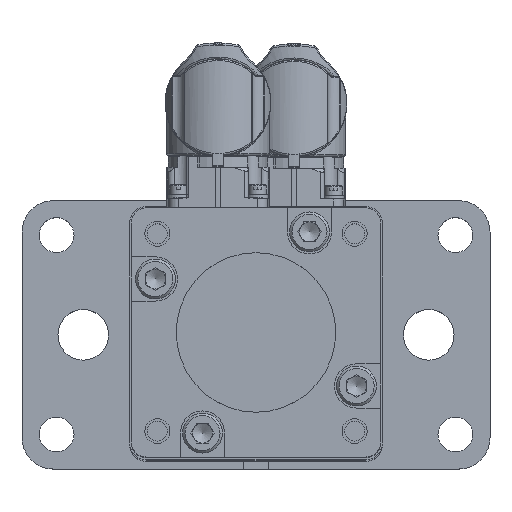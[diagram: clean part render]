
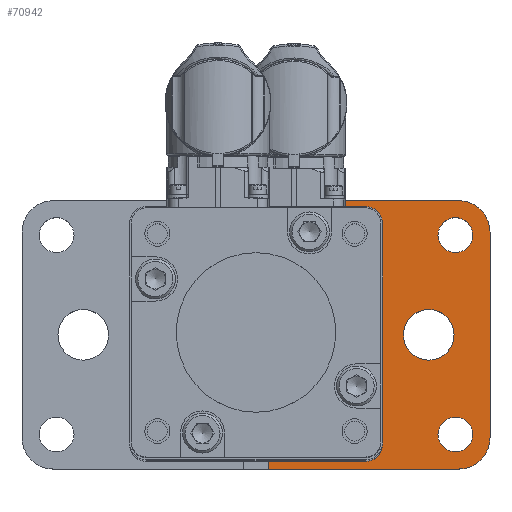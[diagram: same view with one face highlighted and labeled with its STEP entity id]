
A CAD part, top view. The second image highlights one B-rep face of the part: STEP entity #70942.
In plain terms, the highlighted planar face has unit normal (0, 0, 1) as drawn and (0, 0, -1) by its records, which use the part's own axes.
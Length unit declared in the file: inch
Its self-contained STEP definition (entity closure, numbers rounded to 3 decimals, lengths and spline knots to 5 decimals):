
#104 = CARTESIAN_POINT ( 'NONE',  ( -2., 1.325, -0.44 ) ) ;
#266 = ORIENTED_EDGE ( 'NONE', *, *, #1417, .F. ) ;
#371 = ORIENTED_EDGE ( 'NONE', *, *, #32961, .F. ) ;
#706 = VERTEX_POINT ( 'NONE', #18119 ) ;
#1056 = CARTESIAN_POINT ( 'NONE',  ( -0.3937, 1.06299, -0.44 ) ) ;
#1213 = LINE ( 'NONE', #43679, #59910 ) ;
#1417 = EDGE_CURVE ( 'NONE', #60629, #69089, #22591, .T. ) ;
#1883 = VERTEX_POINT ( 'NONE', #68695 ) ;
#2160 = DIRECTION ( 'NONE',  ( 0., 0., -1. ) ) ;
#3433 = CARTESIAN_POINT ( 'NONE',  ( -1.9685, -0.98425, -0.44 ) ) ;
#3524 = CARTESIAN_POINT ( 'NONE',  ( -1.06299, 0.3937, -0.44 ) ) ;
#3989 = DIRECTION ( 'NONE',  ( 1., 0., 0. ) ) ;
#5528 = VERTEX_POINT ( 'NONE', #23320 ) ;
#5602 = CARTESIAN_POINT ( 'NONE',  ( -1.06299, -0.3937, -0.44 ) ) ;
#5651 = CIRCLE ( 'NONE', #48803, 0.31 ) ;
#6869 = EDGE_CURVE ( 'NONE', #40853, #40853, #19433, .T. ) ;
#7464 = DIRECTION ( 'NONE',  ( 0., 0., -1. ) ) ;
#8457 = EDGE_CURVE ( 'NONE', #26974, #27227, #15706, .T. ) ;
#8902 = CARTESIAN_POINT ( 'NONE',  ( -2., -1.325, -0.44 ) ) ;
#10512 = CIRCLE ( 'NONE', #48689, 0.133 ) ;
#11090 = DIRECTION ( 'NONE',  ( 0., -1., 0. ) ) ;
#12034 = CARTESIAN_POINT ( 'NONE',  ( -2.31, -1.015, -0.44 ) ) ;
#12670 = AXIS2_PLACEMENT_3D ( 'NONE', #42737, #2160, #66322 ) ;
#13094 = EDGE_LOOP ( 'NONE', ( #44383 ) ) ;
#13438 = CARTESIAN_POINT ( 'NONE',  ( -0.125, 1.325, -0.44 ) ) ;
#14062 = VECTOR ( 'NONE', #72287, 39.37008 ) ;
#14290 = DIRECTION ( 'NONE',  ( 0., 0., 1. ) ) ;
#14295 = AXIS2_PLACEMENT_3D ( 'NONE', #35372, #46190, #11090 ) ;
#15706 = CIRCLE ( 'NONE', #65077, 0.94514 ) ;
#16336 = EDGE_LOOP ( 'NONE', ( #56845 ) ) ;
#16414 = DIRECTION ( 'NONE',  ( 1., 0., 0. ) ) ;
#17439 = CIRCLE ( 'NONE', #40830, 0.31 ) ;
#18119 = CARTESIAN_POINT ( 'NONE',  ( -1.7965, -0.98425, -0.44 ) ) ;
#18312 = EDGE_CURVE ( 'NONE', #58637, #58637, #59466, .T. ) ;
#18618 = ORIENTED_EDGE ( 'NONE', *, *, #6869, .F. ) ;
#18971 = CARTESIAN_POINT ( 'NONE',  ( -2., -1.015, -0.44 ) ) ;
#19281 = DIRECTION ( 'NONE',  ( 1., 0., 0. ) ) ;
#19433 = CIRCLE ( 'NONE', #42895, 0.133 ) ;
#19898 = VECTOR ( 'NONE', #33766, 39.37008 ) ;
#20376 = AXIS2_PLACEMENT_3D ( 'NONE', #62722, #34466, #3989 ) ;
#20418 = EDGE_LOOP ( 'NONE', ( #29972 ) ) ;
#21841 = CARTESIAN_POINT ( 'NONE',  ( -2.31, 1.325, -0.44 ) ) ;
#21934 = CARTESIAN_POINT ( 'NONE',  ( -2.31, 1.015, -0.44 ) ) ;
#22153 = FACE_BOUND ( 'NONE', #31858, .T. ) ;
#22591 = LINE ( 'NONE', #21841, #19898 ) ;
#22942 = EDGE_LOOP ( 'NONE', ( #41496 ) ) ;
#23320 = CARTESIAN_POINT ( 'NONE',  ( -0.3937, 1.19599, -0.44 ) ) ;
#24167 = EDGE_CURVE ( 'NONE', #36940, #36940, #31121, .T. ) ;
#25052 = CARTESIAN_POINT ( 'NONE',  ( -0.125, -1.325, -0.44 ) ) ;
#25214 = ORIENTED_EDGE ( 'NONE', *, *, #75195, .T. ) ;
#26126 = AXIS2_PLACEMENT_3D ( 'NONE', #48603, #72221, #19281 ) ;
#26135 = DIRECTION ( 'NONE',  ( 0., 0., 1. ) ) ;
#26971 = DIRECTION ( 'NONE',  ( 1., 0., 0. ) ) ;
#26974 = VERTEX_POINT ( 'NONE', #60121 ) ;
#27227 = VERTEX_POINT ( 'NONE', #72302 ) ;
#27689 = EDGE_LOOP ( 'NONE', ( #62022 ) ) ;
#27913 = FACE_OUTER_BOUND ( 'NONE', #66453, .T. ) ;
#28355 = VECTOR ( 'NONE', #49306, 39.37008 ) ;
#28915 = AXIS2_PLACEMENT_3D ( 'NONE', #1056, #26135, #54358 ) ;
#29139 = CARTESIAN_POINT ( 'NONE',  ( -2., 1.015, -0.44 ) ) ;
#29915 = EDGE_CURVE ( 'NONE', #27227, #1883, #60547, .T. ) ;
#29972 = ORIENTED_EDGE ( 'NONE', *, *, #43267, .F. ) ;
#30515 = CARTESIAN_POINT ( 'NONE',  ( -2.31, 1.325, -0.44 ) ) ;
#31121 = CIRCLE ( 'NONE', #12670, 0.172 ) ;
#31858 = EDGE_LOOP ( 'NONE', ( #74514 ) ) ;
#32961 = EDGE_CURVE ( 'NONE', #52414, #26974, #52243, .T. ) ;
#33326 = FACE_BOUND ( 'NONE', #27689, .T. ) ;
#33766 = DIRECTION ( 'NONE',  ( 0., -1., 0. ) ) ;
#34466 = DIRECTION ( 'NONE',  ( 0., 0., 1. ) ) ;
#35372 = CARTESIAN_POINT ( 'NONE',  ( -0.3937, -1.06299, -0.44 ) ) ;
#36729 = DIRECTION ( 'NONE',  ( 1., 0., 0. ) ) ;
#36940 = VERTEX_POINT ( 'NONE', #60545 ) ;
#38503 = ORIENTED_EDGE ( 'NONE', *, *, #8457, .F. ) ;
#39639 = VERTEX_POINT ( 'NONE', #104 ) ;
#40613 = EDGE_CURVE ( 'NONE', #39639, #1883, #43254, .T. ) ;
#40830 = AXIS2_PLACEMENT_3D ( 'NONE', #29139, #52737, #76358 ) ;
#40853 = VERTEX_POINT ( 'NONE', #52450 ) ;
#41496 = ORIENTED_EDGE ( 'NONE', *, *, #68117, .T. ) ;
#42737 = CARTESIAN_POINT ( 'NONE',  ( -1.9685, 0.98425, -0.44 ) ) ;
#42895 = AXIS2_PLACEMENT_3D ( 'NONE', #3524, #74269, #61109 ) ;
#43254 = LINE ( 'NONE', #30515, #14062 ) ;
#43267 = EDGE_CURVE ( 'NONE', #44554, #44554, #47591, .T. ) ;
#43679 = CARTESIAN_POINT ( 'NONE',  ( -2.31, -1.325, -0.44 ) ) ;
#44383 = ORIENTED_EDGE ( 'NONE', *, *, #64594, .T. ) ;
#44554 = VERTEX_POINT ( 'NONE', #74742 ) ;
#44922 = FACE_BOUND ( 'NONE', #22942, .T. ) ;
#46190 = DIRECTION ( 'NONE',  ( 0., 0., -1. ) ) ;
#46537 = DIRECTION ( 'NONE',  ( 0., 0., 1. ) ) ;
#46734 = EDGE_CURVE ( 'NONE', #75411, #52414, #1213, .T. ) ;
#47185 = DIRECTION ( 'NONE',  ( 1., 0., 0. ) ) ;
#47591 = CIRCLE ( 'NONE', #14295, 0.133 ) ;
#48033 = CARTESIAN_POINT ( 'NONE',  ( 0., 0., -0.44 ) ) ;
#48552 = EDGE_CURVE ( 'NONE', #5528, #5528, #64759, .T. ) ;
#48603 = CARTESIAN_POINT ( 'NONE',  ( -1.705, 0., -0.44 ) ) ;
#48689 = AXIS2_PLACEMENT_3D ( 'NONE', #5602, #46537, #16414 ) ;
#48693 = CIRCLE ( 'NONE', #73393, 0.172 ) ;
#48803 = AXIS2_PLACEMENT_3D ( 'NONE', #18971, #70399, #47185 ) ;
#49306 = DIRECTION ( 'NONE',  ( 0., 1., 0. ) ) ;
#51101 = FACE_BOUND ( 'NONE', #20418, .T. ) ;
#52022 = ORIENTED_EDGE ( 'NONE', *, *, #56060, .T. ) ;
#52243 = LINE ( 'NONE', #68891, #64204 ) ;
#52414 = VERTEX_POINT ( 'NONE', #25052 ) ;
#52450 = CARTESIAN_POINT ( 'NONE',  ( -1.19599, 0.3937, -0.44 ) ) ;
#52652 = DIRECTION ( 'NONE',  ( 0., 1., 0. ) ) ;
#52737 = DIRECTION ( 'NONE',  ( 0., 0., -1. ) ) ;
#52845 = CARTESIAN_POINT ( 'NONE',  ( -1.455, 0., -0.44 ) ) ;
#54358 = DIRECTION ( 'NONE',  ( 0., 1., 0. ) ) ;
#54369 = CARTESIAN_POINT ( 'NONE',  ( -0.92999, -0.3937, -0.44 ) ) ;
#56060 = EDGE_CURVE ( 'NONE', #60629, #39639, #17439, .T. ) ;
#56442 = EDGE_LOOP ( 'NONE', ( #18618 ) ) ;
#56845 = ORIENTED_EDGE ( 'NONE', *, *, #18312, .F. ) ;
#56899 = FACE_BOUND ( 'NONE', #16336, .T. ) ;
#58637 = VERTEX_POINT ( 'NONE', #52845 ) ;
#59466 = CIRCLE ( 'NONE', #26126, 0.25 ) ;
#59808 = VERTEX_POINT ( 'NONE', #54369 ) ;
#59910 = VECTOR ( 'NONE', #36729, 39.37008 ) ;
#60121 = CARTESIAN_POINT ( 'NONE',  ( -0.125, -0.93684, -0.44 ) ) ;
#60545 = CARTESIAN_POINT ( 'NONE',  ( -2.1405, 0.98425, -0.44 ) ) ;
#60547 = LINE ( 'NONE', #13438, #28355 ) ;
#60629 = VERTEX_POINT ( 'NONE', #21934 ) ;
#61109 = DIRECTION ( 'NONE',  ( -1., 0., 0. ) ) ;
#62022 = ORIENTED_EDGE ( 'NONE', *, *, #24167, .F. ) ;
#62722 = CARTESIAN_POINT ( 'NONE',  ( -2.31, -1.325, -0.44 ) ) ;
#63872 = FACE_BOUND ( 'NONE', #13094, .T. ) ;
#64204 = VECTOR ( 'NONE', #52652, 39.37008 ) ;
#64509 = ORIENTED_EDGE ( 'NONE', *, *, #46734, .F. ) ;
#64594 = EDGE_CURVE ( 'NONE', #706, #706, #48693, .T. ) ;
#64612 = ORIENTED_EDGE ( 'NONE', *, *, #29915, .F. ) ;
#64759 = CIRCLE ( 'NONE', #28915, 0.133 ) ;
#65077 = AXIS2_PLACEMENT_3D ( 'NONE', #48033, #7464, #71635 ) ;
#66322 = DIRECTION ( 'NONE',  ( -1., 0., 0. ) ) ;
#66453 = EDGE_LOOP ( 'NONE', ( #71604, #64612, #38503, #371, #64509, #25214, #266, #52022 ) ) ;
#68117 = EDGE_CURVE ( 'NONE', #59808, #59808, #10512, .T. ) ;
#68133 = FACE_BOUND ( 'NONE', #56442, .T. ) ;
#68695 = CARTESIAN_POINT ( 'NONE',  ( -0.125, 1.325, -0.44 ) ) ;
#68891 = CARTESIAN_POINT ( 'NONE',  ( -0.125, 1.325, -0.44 ) ) ;
#69089 = VERTEX_POINT ( 'NONE', #12034 ) ;
#70399 = DIRECTION ( 'NONE',  ( 0., 0., -1. ) ) ;
#70942 = ADVANCED_FACE ( 'NONE', ( #56899, #68133, #33326, #63872, #44922, #27913, #22153, #51101 ), #73973, .F. ) ;
#71604 = ORIENTED_EDGE ( 'NONE', *, *, #40613, .T. ) ;
#71635 = DIRECTION ( 'NONE',  ( -1., 0., 0. ) ) ;
#72221 = DIRECTION ( 'NONE',  ( 0., 0., -1. ) ) ;
#72287 = DIRECTION ( 'NONE',  ( 1., 0., 0. ) ) ;
#72302 = CARTESIAN_POINT ( 'NONE',  ( -0.125, 0.93684, -0.44 ) ) ;
#73393 = AXIS2_PLACEMENT_3D ( 'NONE', #3433, #14290, #26971 ) ;
#73973 = PLANE ( 'NONE',  #20376 ) ;
#74269 = DIRECTION ( 'NONE',  ( 0., 0., -1. ) ) ;
#74514 = ORIENTED_EDGE ( 'NONE', *, *, #48552, .T. ) ;
#74742 = CARTESIAN_POINT ( 'NONE',  ( -0.3937, -1.19599, -0.44 ) ) ;
#75195 = EDGE_CURVE ( 'NONE', #75411, #69089, #5651, .T. ) ;
#75411 = VERTEX_POINT ( 'NONE', #8902 ) ;
#76358 = DIRECTION ( 'NONE',  ( 1., 0., 0. ) ) ;
